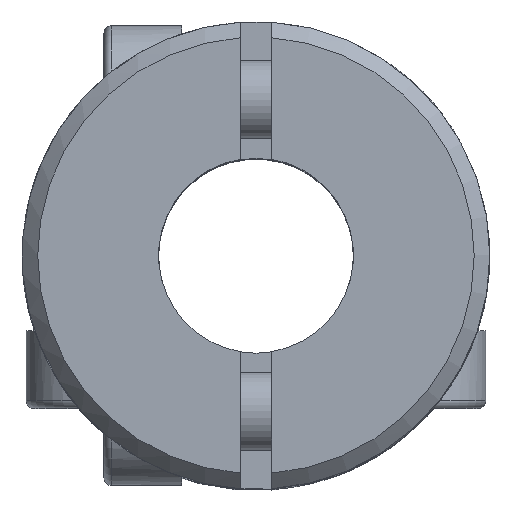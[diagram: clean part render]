
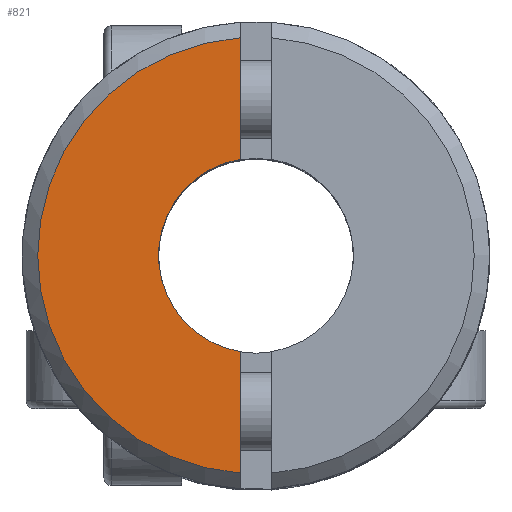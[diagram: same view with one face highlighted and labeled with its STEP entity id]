
A CAD part, top view. The second image highlights one B-rep face of the part: STEP entity #821.
In plain terms, the highlighted planar face has unit normal (0, 0, 1).
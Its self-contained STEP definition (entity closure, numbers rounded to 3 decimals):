
#83 = CARTESIAN_POINT ( 'NONE',  ( -0.4, 15., 9.25 ) ) ;
#217 = CARTESIAN_POINT ( 'NONE',  ( 0., 0., 9.25 ) ) ;
#335 = DIRECTION ( 'NONE',  ( 0., 0., -1. ) ) ;
#351 = EDGE_CURVE ( 'NONE', #1657, #2374, #2475, .T. ) ;
#393 = CARTESIAN_POINT ( 'NONE',  ( -0.4, 15., 9.25 ) ) ;
#401 = VECTOR ( 'NONE', #1072, 1000. ) ;
#455 = ORIENTED_EDGE ( 'NONE', *, *, #351, .F. ) ;
#666 = ORIENTED_EDGE ( 'NONE', *, *, #3806, .F. ) ;
#815 = VECTOR ( 'NONE', #3984, 1000. ) ;
#821 = ADVANCED_FACE ( 'NONE', ( #4287 ), #3479, .F. ) ;
#861 = CARTESIAN_POINT ( 'NONE',  ( -0.4, -5.586, 9.25 ) ) ;
#862 = CARTESIAN_POINT ( 'NONE',  ( 0., 0., 9.25 ) ) ;
#1072 = DIRECTION ( 'NONE',  ( 0., -1., 0. ) ) ;
#1226 = DIRECTION ( 'NONE',  ( 0., 0., 1. ) ) ;
#1304 = CARTESIAN_POINT ( 'NONE',  ( -0.4, -2.468, 9.25 ) ) ;
#1641 = AXIS2_PLACEMENT_3D ( 'NONE', #217, #2771, #4446 ) ;
#1657 = VERTEX_POINT ( 'NONE', #2439 ) ;
#1721 = AXIS2_PLACEMENT_3D ( 'NONE', #4161, #335, #2806 ) ;
#1953 = DIRECTION ( 'NONE',  ( 0., 1., 0. ) ) ;
#2374 = VERTEX_POINT ( 'NONE', #4307 ) ;
#2439 = CARTESIAN_POINT ( 'NONE',  ( -0.4, 5.586, 9.25 ) ) ;
#2475 = LINE ( 'NONE', #393, #401 ) ;
#2604 = CIRCLE ( 'NONE', #1641, 2.5 ) ;
#2652 = ORIENTED_EDGE ( 'NONE', *, *, #4028, .F. ) ;
#2753 = VERTEX_POINT ( 'NONE', #861 ) ;
#2771 = DIRECTION ( 'NONE',  ( 0., 0., 1. ) ) ;
#2806 = DIRECTION ( 'NONE',  ( 0., 1., 0. ) ) ;
#3088 = VERTEX_POINT ( 'NONE', #1304 ) ;
#3304 = EDGE_LOOP ( 'NONE', ( #3918, #2652, #666, #455 ) ) ;
#3479 = PLANE ( 'NONE',  #1721 ) ;
#3730 = EDGE_CURVE ( 'NONE', #1657, #2753, #4216, .T. ) ;
#3806 = EDGE_CURVE ( 'NONE', #2374, #3088, #2604, .T. ) ;
#3918 = ORIENTED_EDGE ( 'NONE', *, *, #3730, .T. ) ;
#3984 = DIRECTION ( 'NONE',  ( 0., -1., 0. ) ) ;
#4010 = AXIS2_PLACEMENT_3D ( 'NONE', #862, #1226, #1953 ) ;
#4028 = EDGE_CURVE ( 'NONE', #3088, #2753, #4315, .T. ) ;
#4161 = CARTESIAN_POINT ( 'NONE',  ( 0., 2.5, 9.25 ) ) ;
#4216 = CIRCLE ( 'NONE', #4010, 5.6 ) ;
#4287 = FACE_OUTER_BOUND ( 'NONE', #3304, .T. ) ;
#4307 = CARTESIAN_POINT ( 'NONE',  ( -0.4, 2.468, 9.25 ) ) ;
#4315 = LINE ( 'NONE', #83, #815 ) ;
#4446 = DIRECTION ( 'NONE',  ( 0., -1., 0. ) ) ;
